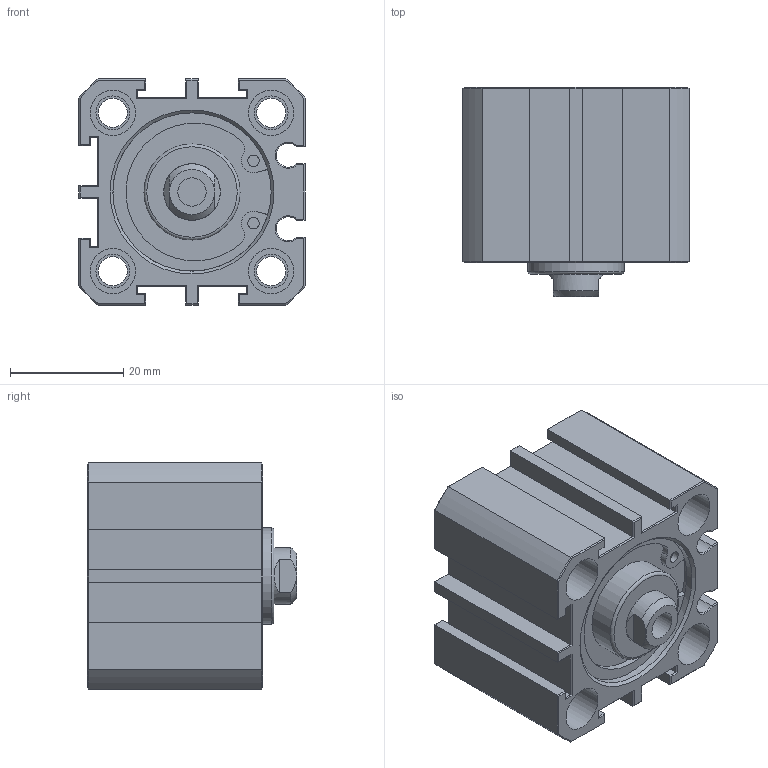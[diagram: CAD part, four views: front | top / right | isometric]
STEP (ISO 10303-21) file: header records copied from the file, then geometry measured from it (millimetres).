
FILE_DESCRIPTION(/* description */ (''),/* implementation_level */ '2;1');
FILE_NAME(/* name */ 'AJC-SD25X10N',/* time_stamp */ '2019-06-13T14:06:50+08:00',/* author */ ('JEFF HUANG'),/* organization */ ('TAIWAN AMAC CLAMP INDUSTRIAL CO., LTD.'),/* preprocessor_version */ 'ST-DEVELOPER v16.7',/* originating_system */ 'DEX',/* authorisation */ $);
FILE_SCHEMA (('AUTOMOTIVE_DESIGN {1 0 10303 214 3 1 1}'));
Length unit declared in the file: millimetre
Products named in the file (1): AJC-SD25X10N
Bounding box: 40 x 37 x 40 mm (x, y, z)
Volume: 36908.9 mm3; surface area: 13611.7 mm2
Topology: 1 solids, 1 shells, 249 faces, 543 edges, 324 vertices
Faces by surface type: plane 180, cylinder 51, cone 16, torus 2
Full cylindrical faces by diameter (mm): 2.004 x4, 5 x3, 5.1 x4, 6 x8, 8 x8, 17 x2, 28 x2
Entity records: 8231 total; most frequent: CARTESIAN_POINT 1158, DIRECTION 1102, ORIENTED_EDGE 1008, EDGE_CURVE 504, AXIS2_PLACEMENT_3D 376, LINE 350, VECTOR 350, VERTEX_POINT 320
